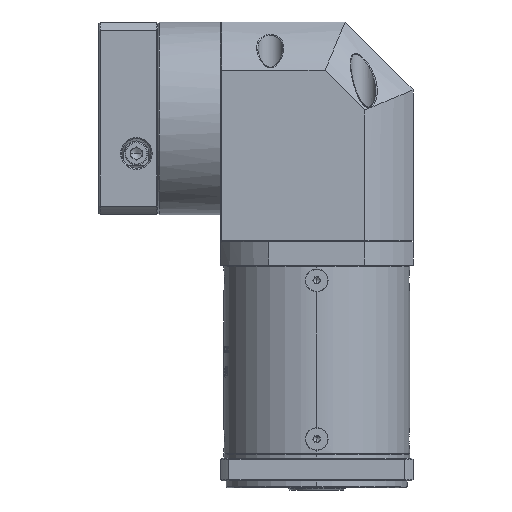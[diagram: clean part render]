
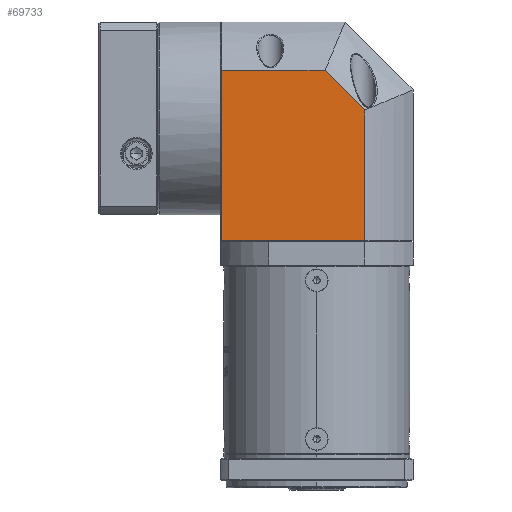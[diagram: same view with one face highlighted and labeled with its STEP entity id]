
A CAD part, left-side view. The second image highlights one B-rep face of the part: STEP entity #69733.
In plain terms, the highlighted planar face has unit normal (-1, 0, 0).
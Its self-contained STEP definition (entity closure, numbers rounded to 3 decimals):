
#4681 = CARTESIAN_POINT ( 'NONE',  ( -125.541, 11.852, 123.902 ) ) ;
#11811 = ORIENTED_EDGE ( 'NONE', *, *, #113318, .F. ) ;
#14551 = LINE ( 'NONE', #167122, #84892 ) ;
#15122 = CARTESIAN_POINT ( 'NONE',  ( -125.541, 75.065, 23.902 ) ) ;
#23128 = VERTEX_POINT ( 'NONE', #158431 ) ;
#23876 = VECTOR ( 'NONE', #150282, 1000. ) ;
#27468 = CARTESIAN_POINT ( 'NONE',  ( -125.541, 29.382, 99.115 ) ) ;
#29608 = VECTOR ( 'NONE', #151775, 1000. ) ;
#30240 = LINE ( 'NONE', #149732, #100590 ) ;
#30767 = VERTEX_POINT ( 'NONE', #15122 ) ;
#40443 = VECTOR ( 'NONE', #146158, 1000. ) ;
#40489 = CARTESIAN_POINT ( 'NONE',  ( -125.541, 75.065, 120.402 ) ) ;
#41172 = EDGE_CURVE ( 'NONE', #110258, #23128, #14551, .T. ) ;
#61732 = CARTESIAN_POINT ( 'NONE',  ( -125.541, 11.852, 23.902 ) ) ;
#63623 = ORIENTED_EDGE ( 'NONE', *, *, #135774, .T. ) ;
#67411 = LINE ( 'NONE', #4681, #23876 ) ;
#68735 = DIRECTION ( 'NONE',  ( 1., 0., 0. ) ) ;
#69733 = ADVANCED_FACE ( 'NONE', ( #167171 ), #94123, .F. ) ;
#70162 = DIRECTION ( 'NONE',  ( 0., -1., 0. ) ) ;
#71506 = LINE ( 'NONE', #40489, #40443 ) ;
#72770 = CARTESIAN_POINT ( 'NONE',  ( -125.541, 75.565, 23.902 ) ) ;
#84892 = VECTOR ( 'NONE', #127811, 1000. ) ;
#86803 = CARTESIAN_POINT ( 'NONE',  ( -125.541, 75.065, 99.115 ) ) ;
#94123 = PLANE ( 'NONE',  #130508 ) ;
#97879 = EDGE_CURVE ( 'NONE', #30767, #102897, #71506, .T. ) ;
#99936 = LINE ( 'NONE', #72770, #29608 ) ;
#100590 = VECTOR ( 'NONE', #70162, 1000. ) ;
#102897 = VERTEX_POINT ( 'NONE', #86803 ) ;
#110258 = VERTEX_POINT ( 'NONE', #27468 ) ;
#113318 = EDGE_CURVE ( 'NONE', #23128, #119401, #67411, .T. ) ;
#119401 = VERTEX_POINT ( 'NONE', #61732 ) ;
#127098 = EDGE_CURVE ( 'NONE', #102897, #110258, #30240, .T. ) ;
#127811 = DIRECTION ( 'NONE',  ( 0., -0.707, -0.707 ) ) ;
#130508 = AXIS2_PLACEMENT_3D ( 'NONE', #147774, #68735, #161015 ) ;
#135774 = EDGE_CURVE ( 'NONE', #30767, #119401, #99936, .T. ) ;
#138165 = ORIENTED_EDGE ( 'NONE', *, *, #127098, .F. ) ;
#146158 = DIRECTION ( 'NONE',  ( 0., 0., 1. ) ) ;
#147774 = CARTESIAN_POINT ( 'NONE',  ( -125.541, 75.565, 120.402 ) ) ;
#148386 = ORIENTED_EDGE ( 'NONE', *, *, #41172, .F. ) ;
#149732 = CARTESIAN_POINT ( 'NONE',  ( -125.541, 75.565, 99.115 ) ) ;
#150282 = DIRECTION ( 'NONE',  ( 0., 0., -1. ) ) ;
#151775 = DIRECTION ( 'NONE',  ( 0., -1., 0. ) ) ;
#158431 = CARTESIAN_POINT ( 'NONE',  ( -125.541, 11.852, 81.585 ) ) ;
#158818 = ORIENTED_EDGE ( 'NONE', *, *, #97879, .F. ) ;
#161015 = DIRECTION ( 'NONE',  ( 0., 1., 0. ) ) ;
#166732 = EDGE_LOOP ( 'NONE', ( #63623, #11811, #148386, #138165, #158818 ) ) ;
#167122 = CARTESIAN_POINT ( 'NONE',  ( -125.541, 29.382, 99.115 ) ) ;
#167171 = FACE_OUTER_BOUND ( 'NONE', #166732, .T. ) ;
